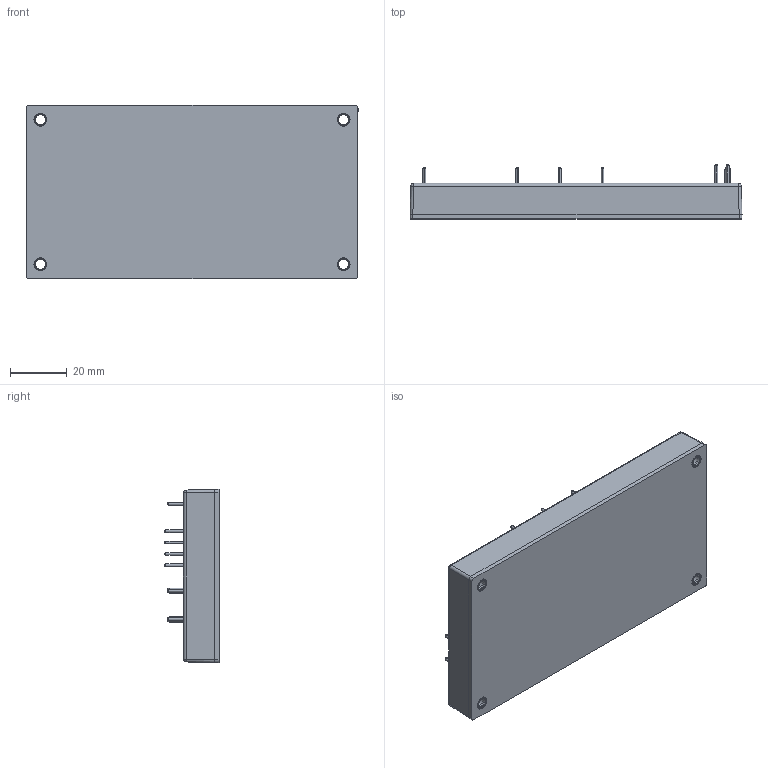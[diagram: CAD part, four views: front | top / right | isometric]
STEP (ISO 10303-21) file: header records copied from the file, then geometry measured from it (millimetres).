
FILE_DESCRIPTION (( 'STEP AP203' ), '1' );
FILE_NAME ('PDF700S ¦¨«~¹Ï-1140121.STEP', '2025-01-21T01:09:47', ( 'cincon' ), ( '' ), 'SwSTEP 2.0', 'SolidWorks 2020', '' );
FILE_SCHEMA (( 'CONFIG_CONTROL_DESIGN' ));
Length unit declared in the file: millimetre
Products named in the file (7): BASE 支工; CFB400W 銅柱12.5mm(M-C460-02-P)G75J2190021; PDF700 ｶ鷄IN+ﾄ鮨ｦ･ﾜｷNｹﾏ 2020.09.23; CFB400W PCB鋁基板示意圖 2016,11,23; G511C410031 M-C1309-00-M V1.1 CASE OF DC-DC PLASTIC CASE FB-13 DAP (WH-9100) 黑色-112.01.17-1; PDF700S 成品圖-1140121
Assembly tree (9 placements, depth 3):
  PDF700S 成品圖-1140121
    CFB400W PCB鋁基板示意圖 2016,11,23
      CFB400W PCB鋁基板示意圖 2016,11,23
      CFB400W 銅柱12.5mm(M-C460-02-P)G75J2190021  x4
    PDF700 ｶ鷄IN+ﾄ鮨ｦ･ﾜｷNｹﾏ 2020.09.23
    G511C410031 M-C1309-00-M V1.1 CASE OF DC-DC PLASTIC CASE FB-13 DAP (WH-9100) 黑色-112.01.17-1
    BASE 支工
Bounding box: 116.8 x 19 x 61 mm (x, y, z)
Volume: 82789.9 mm3; surface area: 55903.1 mm2
Topology: 21 solids, 21 shells, 1046 faces, 2606 edges, 1654 vertices
Faces by surface type: plane 506, cylinder 247, cone 152, bspline 137, sphere 4
Entity records: 31241 total; most frequent: CARTESIAN_POINT 12856, ORIENTED_EDGE 3836, DIRECTION 3222, EDGE_CURVE 1918, VERTEX_POINT 1240, LINE 1170, VECTOR 1170, AXIS2_PLACEMENT_3D 1026
